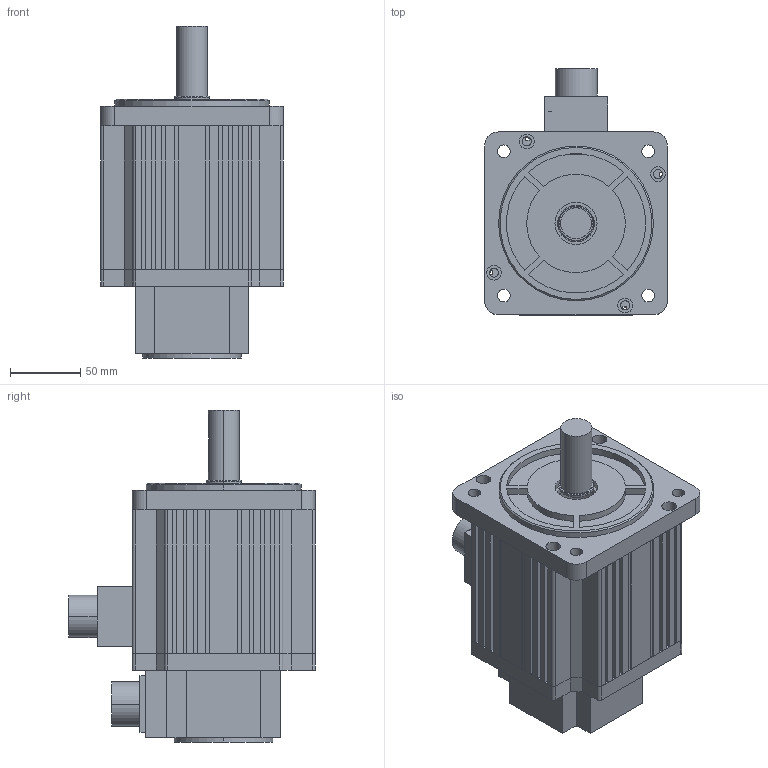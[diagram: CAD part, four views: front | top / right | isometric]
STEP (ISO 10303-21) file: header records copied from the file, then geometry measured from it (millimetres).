
FILE_DESCRIPTION (( 'STEP AP203' ), '1' );
FILE_NAME ('130-06025.STEP', '2020-03-09T13:23:45', ( '' ), ( '' ), 'SwSTEP 2.0', 'SolidWorks 2016', '' );
FILE_SCHEMA (( 'CONFIG_CONTROL_DESIGN' ));
Length unit declared in the file: millimetre
Products named in the file (8): 130粣; 130晤鎢ん; 130侜督綴裔; 130侜督ヶ裔; 130瑤脣; 130瑤脣2; 130隅赽 6籟; 130-06025
Assembly tree (7 placements, depth 2):
  130-06025
    130隅赽 6籟
    130侜督ヶ裔
    130侜督綴裔
    130晤鎢ん
    130粣
    130瑤脣2
    130瑤脣
Bounding box: 130 x 175 x 236 mm (x, y, z)
Volume: 1056359.5 mm3; surface area: 287421.2 mm2
Topology: 8 solids, 8 shells, 528 faces, 1327 edges, 868 vertices
Faces by surface type: plane 331, cylinder 181, cone 10, bspline 4, torus 2
Entity records: 16720 total; most frequent: CARTESIAN_POINT 2835, DIRECTION 2767, ORIENTED_EDGE 2638, EDGE_CURVE 1319, AXIS2_PLACEMENT_3D 930, VECTOR 907, LINE 907, VERTEX_POINT 868
